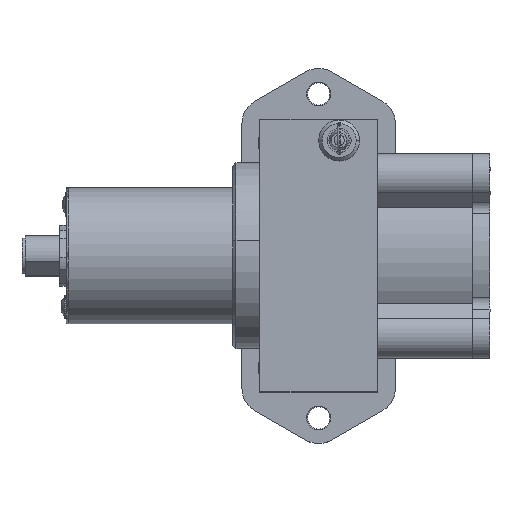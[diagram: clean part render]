
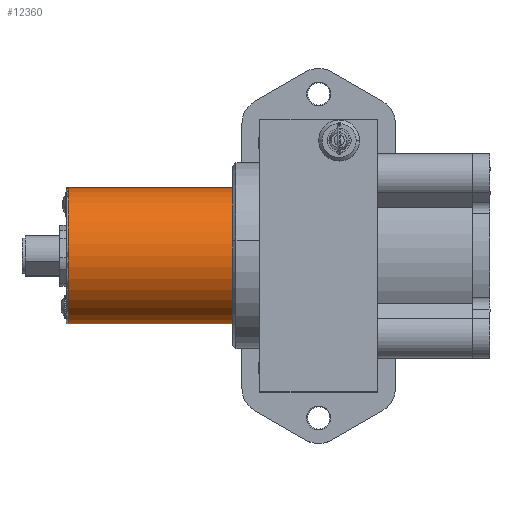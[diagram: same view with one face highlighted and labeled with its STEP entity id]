
A CAD part, top view. The second image highlights one B-rep face of the part: STEP entity #12360.
In plain terms, the highlighted cylindrical face has radius 20 mm (diameter 40 mm), a partial arc.
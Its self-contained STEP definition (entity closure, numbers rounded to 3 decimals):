
#6133 = DIRECTION ( 'NONE',  ( -1., 0., 0. ) ) ;
#6142 = CIRCLE ( 'NONE', #6180, 20. ) ;
#6157 = CARTESIAN_POINT ( 'NONE',  ( -24.25, 0., 0. ) ) ;
#6167 = DIRECTION ( 'NONE',  ( 0., -1., 0. ) ) ;
#6169 = CARTESIAN_POINT ( 'NONE',  ( -85.75, -20., 0. ) ) ;
#6180 = AXIS2_PLACEMENT_3D ( 'NONE', #6157, #6133, #6167 ) ;
#12106 = ORIENTED_EDGE ( 'NONE', *, *, #12355, .T. ) ;
#12107 = ORIENTED_EDGE ( 'NONE', *, *, #12359, .T. ) ;
#12110 = VERTEX_POINT ( 'NONE', #6169 ) ;
#12111 = ORIENTED_EDGE ( 'NONE', *, *, #12112, .T. ) ;
#12112 = EDGE_CURVE ( 'NONE', #12351, #12183, #6142, .T. ) ;
#12182 = EDGE_CURVE ( 'NONE', #12356, #12183, #13631, .T. ) ;
#12183 = VERTEX_POINT ( 'NONE', #13650 ) ;
#12351 = VERTEX_POINT ( 'NONE', #14262 ) ;
#12355 = EDGE_CURVE ( 'NONE', #12356, #12110, #14479, .T. ) ;
#12356 = VERTEX_POINT ( 'NONE', #14471 ) ;
#12359 = EDGE_CURVE ( 'NONE', #12110, #12351, #14470, .T. ) ;
#12360 = ADVANCED_FACE ( 'NONE', ( #14460 ), #14390, .T. ) ;
#12361 = EDGE_LOOP ( 'NONE', ( #12362, #12106, #12107, #12111 ) ) ;
#12362 = ORIENTED_EDGE ( 'NONE', *, *, #12182, .F. ) ;
#13583 = DIRECTION ( 'NONE',  ( 1., 0., 0. ) ) ;
#13597 = CARTESIAN_POINT ( 'NONE',  ( -24.25, 20., 0. ) ) ;
#13631 = LINE ( 'NONE', #13597, #13656 ) ;
#13650 = CARTESIAN_POINT ( 'NONE',  ( -24.25, 20., 0. ) ) ;
#13656 = VECTOR ( 'NONE', #13583, 1000. ) ;
#14262 = CARTESIAN_POINT ( 'NONE',  ( -24.25, -20., 0. ) ) ;
#14384 = DIRECTION ( 'NONE',  ( 0., -1., 0. ) ) ;
#14385 = DIRECTION ( 'NONE',  ( 1., 0., 0. ) ) ;
#14386 = CARTESIAN_POINT ( 'NONE',  ( -24.25, 0., 0. ) ) ;
#14387 = AXIS2_PLACEMENT_3D ( 'NONE', #14386, #14385, #14384 ) ;
#14390 = CYLINDRICAL_SURFACE ( 'NONE', #14387, 20. ) ;
#14460 = FACE_OUTER_BOUND ( 'NONE', #12361, .T. ) ;
#14461 = DIRECTION ( 'NONE',  ( 1., 0., 0. ) ) ;
#14462 = VECTOR ( 'NONE', #14461, 1000. ) ;
#14463 = CARTESIAN_POINT ( 'NONE',  ( -24.25, -20., 0. ) ) ;
#14470 = LINE ( 'NONE', #14463, #14462 ) ;
#14471 = CARTESIAN_POINT ( 'NONE',  ( -85.75, 20., 0. ) ) ;
#14472 = DIRECTION ( 'NONE',  ( 0., -1., 0. ) ) ;
#14473 = DIRECTION ( 'NONE',  ( 1., 0., 0. ) ) ;
#14474 = CARTESIAN_POINT ( 'NONE',  ( -85.75, 0., 0. ) ) ;
#14475 = AXIS2_PLACEMENT_3D ( 'NONE', #14474, #14473, #14472 ) ;
#14479 = CIRCLE ( 'NONE', #14475, 20. ) ;
